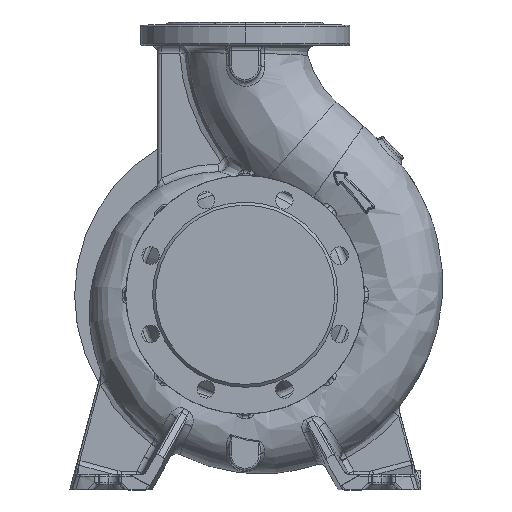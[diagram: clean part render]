
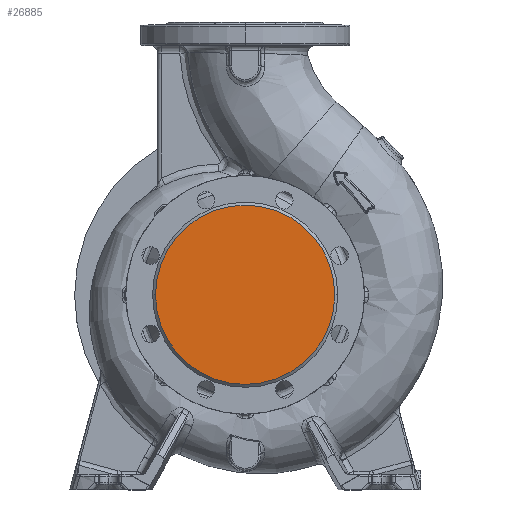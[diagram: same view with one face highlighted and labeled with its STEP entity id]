
A CAD part, top view. The second image highlights one B-rep face of the part: STEP entity #26885.
In plain terms, the highlighted planar face has unit normal (0, 0, 1).
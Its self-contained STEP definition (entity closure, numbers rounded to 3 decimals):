
#8774 = EDGE_CURVE ( 'NONE', #48086, #39380, #16143, .T. ) ;
#9264 = EDGE_CURVE ( 'NONE', #39380, #48086, #33887, .T. ) ;
#15245 = CARTESIAN_POINT ( 'NONE',  ( 0., 0., 125. ) ) ;
#16143 = CIRCLE ( 'NONE', #68021, 92. ) ;
#23976 = CARTESIAN_POINT ( 'NONE',  ( 0., 0., 125. ) ) ;
#25709 = ORIENTED_EDGE ( 'NONE', *, *, #9264, .T. ) ;
#26885 = ADVANCED_FACE ( 'NONE', ( #86276 ), #48620, .T. ) ;
#32774 = ORIENTED_EDGE ( 'NONE', *, *, #8774, .T. ) ;
#33887 = CIRCLE ( 'NONE', #38516, 92. ) ;
#38516 = AXIS2_PLACEMENT_3D ( 'NONE', #15245, #43988, #79750 ) ;
#39380 = VERTEX_POINT ( 'NONE', #86158 ) ;
#39593 = EDGE_LOOP ( 'NONE', ( #25709, #32774 ) ) ;
#43988 = DIRECTION ( 'NONE',  ( 0., 0., 1. ) ) ;
#44705 = DIRECTION ( 'NONE',  ( 0., 0., 1. ) ) ;
#47996 = CARTESIAN_POINT ( 'NONE',  ( 0., 0., 125. ) ) ;
#48086 = VERTEX_POINT ( 'NONE', #79542 ) ;
#48620 = PLANE ( 'NONE',  #85468 ) ;
#51892 = DIRECTION ( 'NONE',  ( 1., 0., 0. ) ) ;
#68021 = AXIS2_PLACEMENT_3D ( 'NONE', #23976, #44705, #51892 ) ;
#79542 = CARTESIAN_POINT ( 'NONE',  ( 92., 0., 125. ) ) ;
#79750 = DIRECTION ( 'NONE',  ( 1., 0., 0. ) ) ;
#84097 = DIRECTION ( 'NONE',  ( 1., 0., 0. ) ) ;
#84402 = DIRECTION ( 'NONE',  ( 0., 0., 1. ) ) ;
#85468 = AXIS2_PLACEMENT_3D ( 'NONE', #47996, #84402, #84097 ) ;
#86158 = CARTESIAN_POINT ( 'NONE',  ( -92., 0., 125. ) ) ;
#86276 = FACE_OUTER_BOUND ( 'NONE', #39593, .T. ) ;
